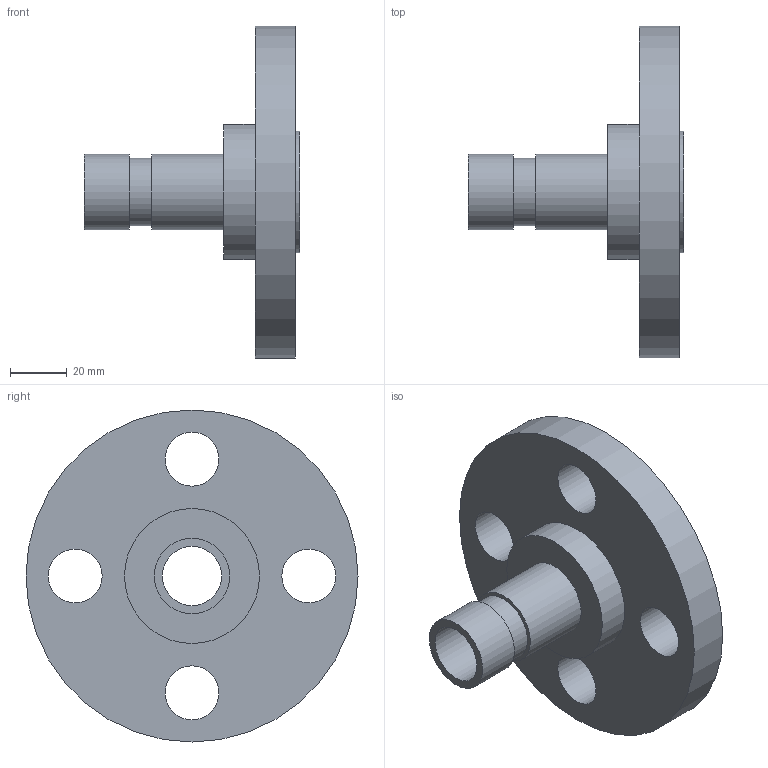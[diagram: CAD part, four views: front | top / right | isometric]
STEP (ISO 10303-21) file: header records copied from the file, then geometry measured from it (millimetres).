
FILE_DESCRIPTION(/* description */ ('VIC FLANGE ADAPTER No 46R','CAx-IF Rec.Pracs.---Representation and Presentation of Product Manufacturing Information (PMI)---4.0---2014-10-13'),/* implementation_level */ '2;1');
FILE_NAME(/* name */ 'C:\Users\kkamble\AppData\Roaming\Autodesk\ApplicationPlugins\Back Up\Victaulic_IPS_Flanged Adapter Nipple_CL 300 RF_No 46R (OGSxFLG)\Victaulic_IPS_Flanged Adapter Nipple_CL 300 RF_No 46R (OGSxFLG)_0.75 (20).stp',/* time_stamp */ '2020-07-26T22:25:24+06:00',/* author */ ('CONSTRUCTION PIPING SERVICES'),/* organization */ ('Victaulic'),/* preprocessor_version */ 'ST-DEVELOPER v17.2',/* originating_system */ 'Autodesk Inventor 2019',/* authorisation */ '');
FILE_SCHEMA (('AP242_MANAGED_MODEL_BASED_3D_ENGINEERING_MIM_LF { 1 0 10303 442 1 1 4 }'));
Length unit declared in the file: inch
Products named in the file (1): 046R-0.75
Bounding box: 76.2 x 117.35 x 117.35 mm (x, y, z)
Volume: 160256.7 mm3; surface area: 38487 mm2
Topology: 1 solids, 1 shells, 18 faces, 47 edges, 36 vertices
Faces by surface type: cylinder 11, plane 7
Full cylindrical faces by diameter (mm): 19.05 x4, 20.93 x1, 23.825 x1, 26.67 x2, 42.926 x1, 47.752 x1, 117.348 x1
Entity records: 689 total; most frequent: DIRECTION 121, CARTESIAN_POINT 102, ORIENTED_EDGE 94, AXIS2_PLACEMENT_3D 55, EDGE_CURVE 47, CIRCLE 36, VERTEX_POINT 36, EDGE_LOOP 33
